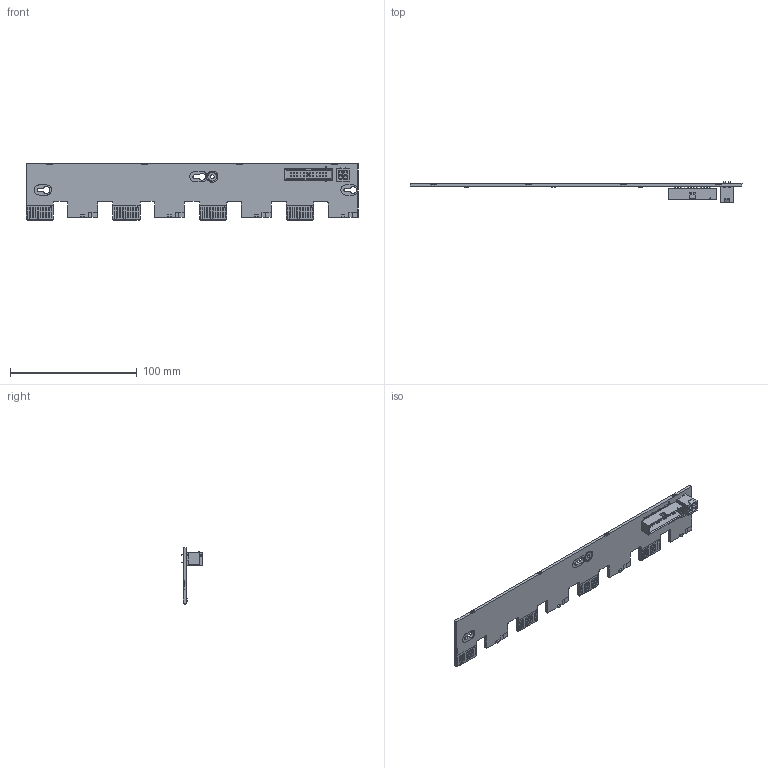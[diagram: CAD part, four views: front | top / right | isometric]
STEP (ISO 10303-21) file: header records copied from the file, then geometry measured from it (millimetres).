
FILE_DESCRIPTION((''),'2;1');
FILE_NAME('FAN-EXTEND-PCBA-60X60_168AO_-NE_ASM','2019-07-31T',('curtis_chen'),(''),'PRO/ENGINEER BY PARAMETRIC TECHNOLOGY CORPORATION, 2012480','PRO/ENGINEER BY PARAMETRIC TECHNOLOGY CORPORATION, 2012480','');
FILE_SCHEMA(('AUTOMOTIVE_DESIGN { 1 0 10303 214 1 1 1 1 }'));
Length unit declared in the file: millimetre
Products named in the file (12): FAN-PCB-168AO_1; VIEW-ANGLE-130; PAD-11119310; 115100000143A-LED-SMD-90; 115100000058A-LED-SMD-90_3_ASM; LCP42-O04W8T00R-02-11157840; 118500000310A-2X2-180_ASM; PAD-11111450; P1-11110660; 118200000748A-SMD-2X12-11110130; 118200000748A-SMD-2X12-11112300_ASM; FAN-EXTEND-PCBA-60X60_168AO_-NE_ASM
Assembly tree (25 placements, depth 3):
  FAN-EXTEND-PCBA-60X60_168AO_-NE_ASM
    FAN-PCB-168AO_1
    115100000058A-LED-SMD-90_3_ASM  x4
      VIEW-ANGLE-130
      PAD-11119310
      115100000143A-LED-SMD-90
    118500000310A-2X2-180_ASM
      LCP42-O04W8T00R-02-11157840
    118200000748A-SMD-2X12-11112300_ASM
      PAD-11111450  x12
      P1-11110660
      118200000748A-SMD-2X12-11110130
Bounding box: 262.04 x 16.3 x 44.46 mm (x, y, z)
Volume: 25891.8 mm3; surface area: 26324.5 mm2
Topology: 7 solids, 7 shells, 799 faces, 2107 edges, 1466 vertices
Faces by surface type: plane 622, cylinder 177
Entity records: 30890 total; most frequent: CARTESIAN_POINT 4471, ORIENTED_EDGE 3950, DIRECTION 3906, PRESENTATION_STYLE_ASSIGNMENT 2085, STYLED_ITEM 1979, CURVE_STYLE 1975, EDGE_CURVE 1975, VECTOR 1584
